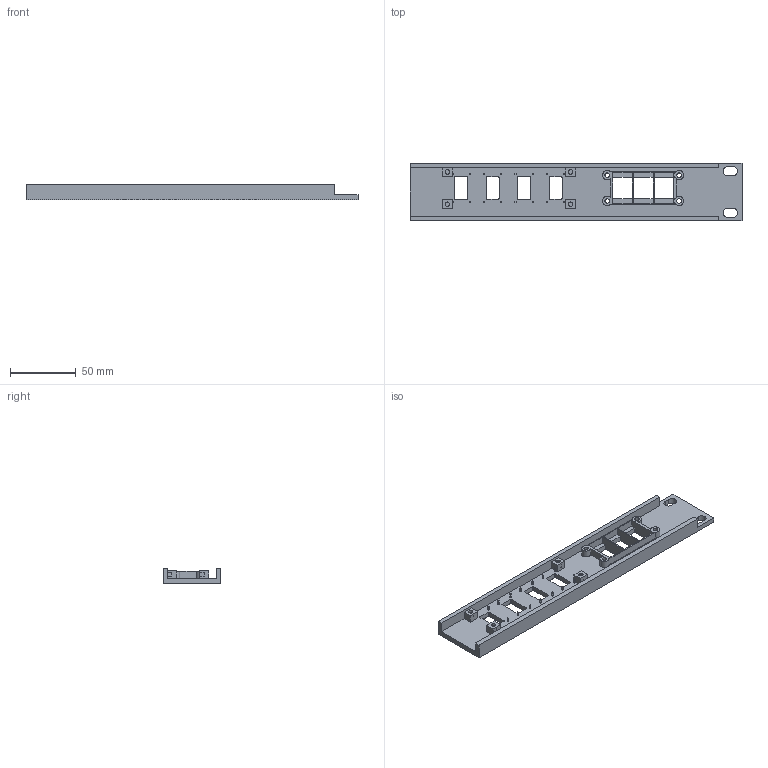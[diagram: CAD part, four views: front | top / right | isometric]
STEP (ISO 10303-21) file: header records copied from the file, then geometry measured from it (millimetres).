
FILE_DESCRIPTION(('Open CASCADE Model'),'2;1');
FILE_NAME('Open CASCADE Shape Model','2026-10-04T02:25:56',('Author'),( 'Open CASCADE'),'Open CASCADE STEP processor 7.8','Open CASCADE 7.8' ,'Unknown');
FILE_SCHEMA(('AUTOMOTIVE_DESIGN { 1 0 10303 214 1 1 1 1 }'));
Length unit declared in the file: millimetre
Products named in the file (1): Open CASCADE STEP translator 7.8 1
Bounding box: 252.93 x 44 x 12 mm (x, y, z)
Volume: 53948.2 mm3; surface area: 34906.5 mm2
Topology: 1 solids, 1 shells, 496 faces, 1341 edges, 894 vertices
Faces by surface type: plane 323, extrusion 117, cylinder 56
Full cylindrical faces by diameter (mm): 3.4 x12
Entity records: 34811 total; most frequent: CARTESIAN_POINT 8617, DIRECTION 4393, VECTOR 3311, LINE 3194, ORIENTED_EDGE 2682, PCURVE 2682, DEFINITIONAL_REPRESENTATION 2682, EDGE_CURVE 1341
